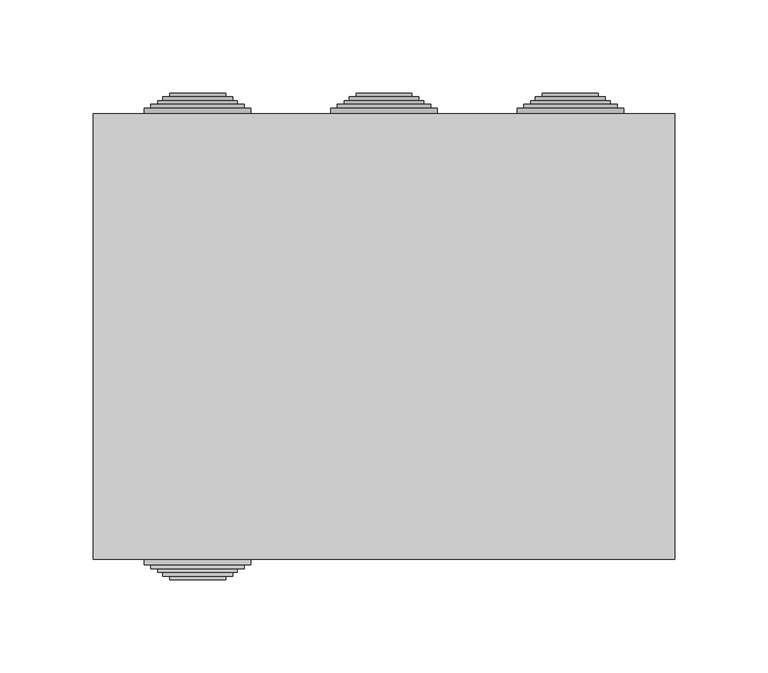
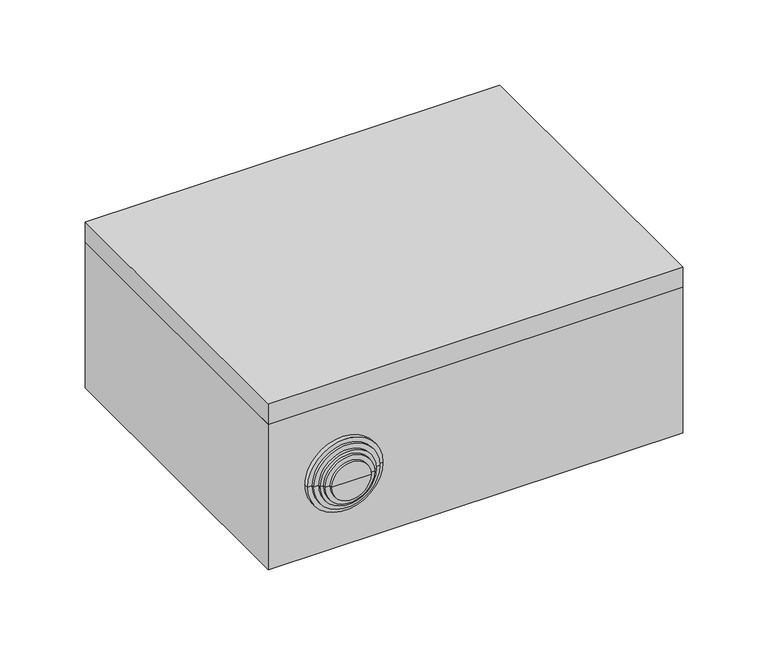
"""IFC4 building model written with IfcOpenShell, lengths in millimetres: cable carrier fitting geometry, КНС_КоробкаОтветвительнаяСКабельнымиВводами_10_IP55_DKC : с 10 кабельными вводами д.40мм, IP55, 300х220х120мм."""

from ifc_helpers import new_model, si_unit, frame, origin, place, context, project, spatial, polyline, circle_curve, faceted_brep, source, transform, mapped, element, save
from ifc_brep_helpers import plane_surface, cylinder_surface, revolved_surface, advanced_brep


def cable_carrier_fitting_1656734a(model_context):
    return source(origin(), model_context, "Body", "SolidModel", [
        advanced_brep(
        [(-75.0, -117.5, 58.0), (-125.0, -117.5, 58.0), (-128.5, -117.5, 58.0), (-71.5, -117.5, 58.0), (-75.0, -119.5, 58.0), (-125.0, -119.5, 58.0), (-71.5, -119.5, 58.0), (-128.5, -119.5, 58.0), (-71.5, -122.5, 58.0), (-128.5, -122.5, 58.0), (-75.0, -122.5, 58.0), (-125.0, -122.5, 58.0), (-75.0, -124.5, 58.0), (-125.0, -124.5, 58.0), (-78.75, -124.5, 58.0), (-121.25, -124.5, 58.0), (-78.75, -126.5, 58.0), (-121.25, -126.5, 58.0), (-81.25, -126.5, 58.0), (-118.75, -126.5, 58.0), (-81.25, -128.5, 58.0), (-118.75, -128.5, 58.0), (-85.0, -128.5, 58.0), (-115.0, -128.5, 58.0), (-85.0, -130.5, 58.0), (-115.0, -130.5, 58.0), (-100.0, -130.5, 58.0), (-75.0, -110.5, 58.0), (-125.0, -110.5, 58.0), (-100.0, -110.5, 58.0), (-71.5, -115.2491137, 58.0), (-128.5, -115.2491137, 58.0)],
        [
            (0, 1, circle_curve(frame((-100.0, -117.5, 58.0), z_axis=(0.0, 1.0, 0.0), x_axis=(-1.0000000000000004, 0.0, 0.0)), 25.0)),
            (1, 2),
            (2, 3, circle_curve(frame((-100.0, -117.5, 58.0), z_axis=(0.0, -1.0, 0.0), x_axis=(-1.0000000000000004, 0.0, 0.0)), 28.5)),
            (3, 0),
            (1, 0, circle_curve(frame((-100.0, -117.5, 58.0), z_axis=(0.0, 1.0, 0.0), x_axis=(-1.0000000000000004, 0.0, 0.0)), 25.0)),
            (3, 2, circle_curve(frame((-100.0, -117.5, 58.0), z_axis=(0.0, -1.0, 0.0), x_axis=(-1.0000000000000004, 0.0, 0.0)), 28.5)),
            (4, 5, circle_curve(frame((-100.0, -119.5, 58.0), z_axis=(0.0, 1.0, 0.0), x_axis=(-1.0000000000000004, 0.0, 0.0)), 25.0)),
            (5, 1),
            (0, 4),
            (5, 4, circle_curve(frame((-100.0, -119.5, 58.0), z_axis=(0.0, 1.0, 0.0), x_axis=(-1.0000000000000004, 0.0, 0.0)), 25.0)),
            (6, 7, circle_curve(frame((-100.0, -119.5, 58.0), z_axis=(0.0, 1.0, 0.0), x_axis=(-1.0000000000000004, 0.0, 0.0)), 28.5)),
            (7, 5),
            (4, 6),
            (7, 6, circle_curve(frame((-100.0, -119.5, 58.0), z_axis=(0.0, 1.0, 0.0), x_axis=(-1.0000000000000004, 0.0, 0.0)), 28.5)),
            (8, 9, circle_curve(frame((-100.0, -122.5, 58.0), z_axis=(0.0, 1.0, 0.0), x_axis=(-1.0000000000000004, 0.0, 0.0)), 28.5)),
            (9, 7),
            (6, 8),
            (9, 8, circle_curve(frame((-100.0, -122.5, 58.0), z_axis=(0.0, 1.0, 0.0), x_axis=(-1.0000000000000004, 0.0, 0.0)), 28.5)),
            (10, 11, circle_curve(frame((-100.0, -122.5, 58.0), z_axis=(0.0, 1.0, 0.0), x_axis=(-1.0000000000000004, 0.0, 0.0)), 25.0)),
            (11, 9),
            (8, 10),
            (11, 10, circle_curve(frame((-100.0, -122.5, 58.0), z_axis=(0.0, 1.0, 0.0), x_axis=(-1.0000000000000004, 0.0, 0.0)), 25.0)),
            (12, 13, circle_curve(frame((-100.0, -124.5, 58.0), z_axis=(0.0, 1.0, 0.0), x_axis=(-1.0000000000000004, 0.0, 0.0)), 25.0)),
            (13, 11),
            (10, 12),
            (13, 12, circle_curve(frame((-100.0, -124.5, 58.0), z_axis=(0.0, 1.0, 0.0), x_axis=(-1.0000000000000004, 0.0, 0.0)), 25.0)),
            (14, 15, circle_curve(frame((-100.0, -124.5, 58.0), z_axis=(0.0, 1.0, 0.0), x_axis=(-1.0000000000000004, 0.0, 0.0)), 21.25)),
            (15, 13),
            (12, 14),
            (15, 14, circle_curve(frame((-100.0, -124.5, 58.0), z_axis=(0.0, 1.0, 0.0), x_axis=(-1.0000000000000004, 0.0, 0.0)), 21.25)),
            (16, 17, circle_curve(frame((-100.0, -126.5, 58.0), z_axis=(0.0, 1.0, 0.0), x_axis=(-1.0000000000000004, 0.0, 0.0)), 21.25)),
            (17, 15),
            (14, 16),
            (17, 16, circle_curve(frame((-100.0, -126.5, 58.0), z_axis=(0.0, 1.0, 0.0), x_axis=(-1.0000000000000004, 0.0, 0.0)), 21.25)),
            (18, 19, circle_curve(frame((-100.0, -126.5, 58.0), z_axis=(0.0, 1.0, 0.0), x_axis=(-1.0000000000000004, 0.0, 0.0)), 18.75)),
            (19, 17),
            (16, 18),
            (19, 18, circle_curve(frame((-100.0, -126.5, 58.0), z_axis=(0.0, 1.0, 0.0), x_axis=(-1.0000000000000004, 0.0, 0.0)), 18.75)),
            (20, 21, circle_curve(frame((-100.0, -128.5, 58.0), z_axis=(0.0, 1.0, 0.0), x_axis=(-1.0000000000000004, 0.0, 0.0)), 18.75)),
            (21, 19),
            (18, 20),
            (21, 20, circle_curve(frame((-100.0, -128.5, 58.0), z_axis=(0.0, 1.0, 0.0), x_axis=(-1.0000000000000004, 0.0, 0.0)), 18.75)),
            (22, 23, circle_curve(frame((-100.0, -128.5, 58.0), z_axis=(0.0, 1.0, 0.0), x_axis=(-1.0000000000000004, 0.0, 0.0)), 15.0)),
            (23, 21),
            (20, 22),
            (23, 22, circle_curve(frame((-100.0, -128.5, 58.0), z_axis=(0.0, 1.0, 0.0), x_axis=(-1.0000000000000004, 0.0, 0.0)), 15.0)),
            (24, 25, circle_curve(frame((-100.0, -130.5, 58.0), z_axis=(0.0, 1.0, 0.0), x_axis=(-1.0000000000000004, 0.0, 0.0)), 15.0)),
            (25, 23),
            (22, 24),
            (25, 24, circle_curve(frame((-100.0, -130.5, 58.0), z_axis=(0.0, 1.0, 0.0), x_axis=(-1.0000000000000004, 0.0, 0.0)), 15.0)),
            (26, 25),
            (24, 26),
            (27, 28, circle_curve(frame((-100.0, -110.5, 58.0), z_axis=(0.0, 1.0, 0.0), x_axis=(-1.0000000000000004, 0.0, 0.0)), 25.0)),
            (28, 29),
            (29, 27),
            (28, 27, circle_curve(frame((-100.0, -110.5, 58.0), z_axis=(0.0, 1.0, 0.0), x_axis=(-1.0000000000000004, 0.0, 0.0)), 25.0)),
            (30, 31, circle_curve(frame((-100.0, -115.2491137, 58.0), z_axis=(0.0, 1.0, 0.0), x_axis=(-1.0000000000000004, 0.0, 0.0)), 28.5)),
            (31, 28),
            (27, 30),
            (31, 30, circle_curve(frame((-100.0, -115.2491137, 58.0), z_axis=(0.0, 1.0, 0.0), x_axis=(-1.0000000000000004, 0.0, 0.0)), 28.5)),
            (2, 31),
            (30, 3),
        ],
        [
            plane_surface(frame((-100.0, -117.5, 58.0), z_axis=(0.0, -1.0, 0.0), x_axis=(-1.0, 0.0, 0.0))),
            cylinder_surface(frame((-100.0, 1395.5, 58.0), z_axis=(0.0, -1.0000000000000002, 0.0), x_axis=(-1.0000000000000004, 0.0, 0.0)), 25.0),
            plane_surface(frame((-100.0, -119.5, 58.0), z_axis=(0.0, 1.0, 0.0), x_axis=(-1.0, 0.0, 0.0))),
            cylinder_surface(frame((-100.0, 1395.5, 58.0), z_axis=(0.0, -1.0000000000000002, 0.0), x_axis=(-1.0000000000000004, 0.0, 0.0)), 28.5),
            plane_surface(frame((-100.0, -122.5, 58.0), z_axis=(0.0, -1.0, 0.0), x_axis=(-1.0, 0.0, 0.0))),
            plane_surface(frame((-100.0, -124.5, 58.0), z_axis=(0.0, -1.0, 0.0), x_axis=(-1.0, 0.0, 0.0))),
            cylinder_surface(frame((-100.0, 1395.5, 58.0), z_axis=(0.0, -1.0000000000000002, 0.0), x_axis=(-1.0000000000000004, 0.0, 0.0)), 21.25),
            plane_surface(frame((-100.0, -126.5, 58.0), z_axis=(0.0, -1.0, 0.0), x_axis=(-1.0, 0.0, 0.0))),
            cylinder_surface(frame((-100.0, 1395.5, 58.0), z_axis=(0.0, -1.0000000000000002, 0.0), x_axis=(-1.0000000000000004, 0.0, 0.0)), 18.75),
            plane_surface(frame((-100.0, -128.5, 58.0), z_axis=(0.0, -1.0, 0.0), x_axis=(-1.0, 0.0, 0.0))),
            cylinder_surface(frame((-100.0, 1395.5, 58.0), z_axis=(0.0, -1.0000000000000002, 0.0), x_axis=(-1.0000000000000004, 0.0, 0.0)), 15.0),
            plane_surface(frame((-100.0, -130.5, 58.0), z_axis=(0.0, -1.0, 0.0), x_axis=(-1.0, 0.0, 0.0))),
            plane_surface(frame((-100.0, -110.5, 58.0), z_axis=(0.0, 1.0, 0.0), x_axis=(-1.0, 0.0, 0.0))),
            revolved_surface(polyline([(-125.0, -110.5, 58.0), (-128.5, -115.2491137, 58.0)]), (-100.0, 1395.5, 58.0), (0.0, -1.0000000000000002, 0.0)),
        ],
        [
            (0, [[1, 2, 3, 4]]),
            (0, [[5, -4, 6, -2]]),
            (1, [[7, 8, -1, 9]]),
            (1, [[10, -9, -5, -8]]),
            (2, [[11, 12, -7, 13]]),
            (2, [[14, -13, -10, -12]]),
            (3, [[15, 16, -11, 17]]),
            (3, [[18, -17, -14, -16]]),
            (4, [[19, 20, -15, 21]]),
            (4, [[22, -21, -18, -20]]),
            (1, [[23, 24, -19, 25]]),
            (1, [[26, -25, -22, -24]]),
            (5, [[27, 28, -23, 29]]),
            (5, [[30, -29, -26, -28]]),
            (6, [[31, 32, -27, 33]]),
            (6, [[34, -33, -30, -32]]),
            (7, [[35, 36, -31, 37]]),
            (7, [[38, -37, -34, -36]]),
            (8, [[39, 40, -35, 41]]),
            (8, [[42, -41, -38, -40]]),
            (9, [[43, 44, -39, 45]]),
            (9, [[46, -45, -42, -44]]),
            (10, [[47, 48, -43, 49]]),
            (10, [[50, -49, -46, -48]]),
            (11, [[51, -47, 52]]),
            (11, [[-52, -50, -51]]),
            (12, [[53, 54, 55]]),
            (12, [[56, -55, -54]]),
            (13, [[57, 58, -53, 59]]),
            (13, [[60, -59, -56, -58]]),
            (3, [[-3, 61, -57, 62]]),
            (3, [[-6, -62, -60, -61]]),
        ],
    ),
        advanced_brep(
        [(75.0, 117.5, 58.0), (125.0, 117.5, 58.0), (128.5, 117.5, 58.0), (71.5, 117.5, 58.0), (75.0, 119.5, 58.0), (125.0, 119.5, 58.0), (71.5, 119.5, 58.0), (128.5, 119.5, 58.0), (71.5, 122.5, 58.0), (128.5, 122.5, 58.0), (75.0, 122.5, 58.0), (125.0, 122.5, 58.0), (75.0, 124.5, 58.0), (125.0, 124.5, 58.0), (78.75, 124.5, 58.0), (121.25, 124.5, 58.0), (78.75, 126.5, 58.0), (121.25, 126.5, 58.0), (81.25, 126.5, 58.0), (118.75, 126.5, 58.0), (81.25, 128.5, 58.0), (118.75, 128.5, 58.0), (85.0, 128.5, 58.0), (115.0, 128.5, 58.0), (85.0, 130.5, 58.0), (115.0, 130.5, 58.0), (100.0, 130.5, 58.0), (75.0, 110.5, 58.0), (125.0, 110.5, 58.0), (100.0, 110.5, 58.0), (71.5, 115.2491137, 58.0), (128.5, 115.2491137, 58.0)],
        [
            (0, 1, circle_curve(frame((100.0, 117.5, 58.0), z_axis=(0.0, -1.0, 0.0), x_axis=(1.0, 0.0, 0.0)), 25.0)),
            (1, 2),
            (2, 3, circle_curve(frame((100.0, 117.5, 58.0), z_axis=(0.0, 1.0, 0.0), x_axis=(1.0, 0.0, 0.0)), 28.5)),
            (3, 0),
            (1, 0, circle_curve(frame((100.0, 117.5, 58.0), z_axis=(0.0, -1.0, 0.0), x_axis=(1.0, 0.0, 0.0)), 25.0)),
            (3, 2, circle_curve(frame((100.0, 117.5, 58.0), z_axis=(0.0, 1.0, 0.0), x_axis=(1.0, 0.0, 0.0)), 28.5)),
            (4, 5, circle_curve(frame((100.0, 119.5, 58.0), z_axis=(0.0, -1.0, 0.0), x_axis=(1.0, 0.0, 0.0)), 25.0)),
            (5, 1),
            (0, 4),
            (5, 4, circle_curve(frame((100.0, 119.5, 58.0), z_axis=(0.0, -1.0, 0.0), x_axis=(1.0, 0.0, 0.0)), 25.0)),
            (6, 7, circle_curve(frame((100.0, 119.5, 58.0), z_axis=(0.0, -1.0, 0.0), x_axis=(1.0, 0.0, 0.0)), 28.5)),
            (7, 5),
            (4, 6),
            (7, 6, circle_curve(frame((100.0, 119.5, 58.0), z_axis=(0.0, -1.0, 0.0), x_axis=(1.0, 0.0, 0.0)), 28.5)),
            (8, 9, circle_curve(frame((100.0, 122.5, 58.0), z_axis=(0.0, -1.0, 0.0), x_axis=(1.0, 0.0, 0.0)), 28.5)),
            (9, 7),
            (6, 8),
            (9, 8, circle_curve(frame((100.0, 122.5, 58.0), z_axis=(0.0, -1.0, 0.0), x_axis=(1.0, 0.0, 0.0)), 28.5)),
            (10, 11, circle_curve(frame((100.0, 122.5, 58.0), z_axis=(0.0, -1.0, 0.0), x_axis=(1.0, 0.0, 0.0)), 25.0)),
            (11, 9),
            (8, 10),
            (11, 10, circle_curve(frame((100.0, 122.5, 58.0), z_axis=(0.0, -1.0, 0.0), x_axis=(1.0, 0.0, 0.0)), 25.0)),
            (12, 13, circle_curve(frame((100.0, 124.5, 58.0), z_axis=(0.0, -1.0, 0.0), x_axis=(1.0, 0.0, 0.0)), 25.0)),
            (13, 11),
            (10, 12),
            (13, 12, circle_curve(frame((100.0, 124.5, 58.0), z_axis=(0.0, -1.0, 0.0), x_axis=(1.0, 0.0, 0.0)), 25.0)),
            (14, 15, circle_curve(frame((100.0, 124.5, 58.0), z_axis=(0.0, -1.0, 0.0), x_axis=(1.0, 0.0, 0.0)), 21.25)),
            (15, 13),
            (12, 14),
            (15, 14, circle_curve(frame((100.0, 124.5, 58.0), z_axis=(0.0, -1.0, 0.0), x_axis=(1.0, 0.0, 0.0)), 21.25)),
            (16, 17, circle_curve(frame((100.0, 126.5, 58.0), z_axis=(0.0, -1.0, 0.0), x_axis=(1.0, 0.0, 0.0)), 21.25)),
            (17, 15),
            (14, 16),
            (17, 16, circle_curve(frame((100.0, 126.5, 58.0), z_axis=(0.0, -1.0, 0.0), x_axis=(1.0, 0.0, 0.0)), 21.25)),
            (18, 19, circle_curve(frame((100.0, 126.5, 58.0), z_axis=(0.0, -1.0, 0.0), x_axis=(1.0, 0.0, 0.0)), 18.75)),
            (19, 17),
            (16, 18),
            (19, 18, circle_curve(frame((100.0, 126.5, 58.0), z_axis=(0.0, -1.0, 0.0), x_axis=(1.0, 0.0, 0.0)), 18.75)),
            (20, 21, circle_curve(frame((100.0, 128.5, 58.0), z_axis=(0.0, -1.0, 0.0), x_axis=(1.0, 0.0, 0.0)), 18.75)),
            (21, 19),
            (18, 20),
            (21, 20, circle_curve(frame((100.0, 128.5, 58.0), z_axis=(0.0, -1.0, 0.0), x_axis=(1.0, 0.0, 0.0)), 18.75)),
            (22, 23, circle_curve(frame((100.0, 128.5, 58.0), z_axis=(0.0, -1.0, 0.0), x_axis=(1.0, 0.0, 0.0)), 15.0)),
            (23, 21),
            (20, 22),
            (23, 22, circle_curve(frame((100.0, 128.5, 58.0), z_axis=(0.0, -1.0, 0.0), x_axis=(1.0, 0.0, 0.0)), 15.0)),
            (24, 25, circle_curve(frame((100.0, 130.5, 58.0), z_axis=(0.0, -1.0, 0.0), x_axis=(1.0, 0.0, 0.0)), 15.0)),
            (25, 23),
            (22, 24),
            (25, 24, circle_curve(frame((100.0, 130.5, 58.0), z_axis=(0.0, -1.0, 0.0), x_axis=(1.0, 0.0, 0.0)), 15.0)),
            (26, 25),
            (24, 26),
            (27, 28, circle_curve(frame((100.0, 110.5, 58.0), z_axis=(0.0, -1.0, 0.0), x_axis=(1.0, 0.0, 0.0)), 25.0)),
            (28, 29),
            (29, 27),
            (28, 27, circle_curve(frame((100.0, 110.5, 58.0), z_axis=(0.0, -1.0, 0.0), x_axis=(1.0, 0.0, 0.0)), 25.0)),
            (30, 31, circle_curve(frame((100.0, 115.2491137, 58.0), z_axis=(0.0, -1.0, 0.0), x_axis=(1.0, 0.0, 0.0)), 28.5)),
            (31, 28),
            (27, 30),
            (31, 30, circle_curve(frame((100.0, 115.2491137, 58.0), z_axis=(0.0, -1.0, 0.0), x_axis=(1.0, 0.0, 0.0)), 28.5)),
            (2, 31),
            (30, 3),
        ],
        [
            plane_surface(frame((100.0, 117.5, 58.0), z_axis=(0.0, 1.0, 0.0), x_axis=(1.0, 0.0, 0.0))),
            cylinder_surface(frame((100.0, -1395.5, 58.0), z_axis=(0.0, 1.0, 0.0), x_axis=(1.0, 0.0, 0.0)), 25.0),
            plane_surface(frame((100.0, 119.5, 58.0), z_axis=(0.0, -1.0, 0.0), x_axis=(1.0, 0.0, 0.0))),
            cylinder_surface(frame((100.0, -1395.5, 58.0), z_axis=(0.0, 1.0, 0.0), x_axis=(1.0, 0.0, 0.0)), 28.5),
            plane_surface(frame((100.0, 122.5, 58.0), z_axis=(0.0, 1.0, 0.0), x_axis=(1.0, 0.0, 0.0))),
            plane_surface(frame((100.0, 124.5, 58.0), z_axis=(0.0, 1.0, 0.0), x_axis=(1.0, 0.0, 0.0))),
            cylinder_surface(frame((100.0, -1395.5, 58.0), z_axis=(0.0, 1.0, 0.0), x_axis=(1.0, 0.0, 0.0)), 21.25),
            plane_surface(frame((100.0, 126.5, 58.0), z_axis=(0.0, 1.0, 0.0), x_axis=(1.0, 0.0, 0.0))),
            cylinder_surface(frame((100.0, -1395.5, 58.0), z_axis=(0.0, 1.0, 0.0), x_axis=(1.0, 0.0, 0.0)), 18.75),
            plane_surface(frame((100.0, 128.5, 58.0), z_axis=(0.0, 1.0, 0.0), x_axis=(1.0, 0.0, 0.0))),
            cylinder_surface(frame((100.0, -1395.5, 58.0), z_axis=(0.0, 1.0, 0.0), x_axis=(1.0, 0.0, 0.0)), 15.0),
            plane_surface(frame((100.0, 130.5, 58.0), z_axis=(0.0, 1.0, 0.0), x_axis=(1.0, 0.0, 0.0))),
            plane_surface(frame((100.0, 110.5, 58.0), z_axis=(0.0, -1.0, 0.0), x_axis=(1.0, 0.0, 0.0))),
            revolved_surface(polyline([(125.0, 110.5, 58.0), (128.5, 115.2491137, 58.0)]), (100.0, -1395.5, 58.0), (0.0, 1.0, 0.0)),
        ],
        [
            (0, [[1, 2, 3, 4]]),
            (0, [[5, -4, 6, -2]]),
            (1, [[7, 8, -1, 9]]),
            (1, [[10, -9, -5, -8]]),
            (2, [[11, 12, -7, 13]]),
            (2, [[14, -13, -10, -12]]),
            (3, [[15, 16, -11, 17]]),
            (3, [[18, -17, -14, -16]]),
            (4, [[19, 20, -15, 21]]),
            (4, [[22, -21, -18, -20]]),
            (1, [[23, 24, -19, 25]]),
            (1, [[26, -25, -22, -24]]),
            (5, [[27, 28, -23, 29]]),
            (5, [[30, -29, -26, -28]]),
            (6, [[31, 32, -27, 33]]),
            (6, [[34, -33, -30, -32]]),
            (7, [[35, 36, -31, 37]]),
            (7, [[38, -37, -34, -36]]),
            (8, [[39, 40, -35, 41]]),
            (8, [[42, -41, -38, -40]]),
            (9, [[43, 44, -39, 45]]),
            (9, [[46, -45, -42, -44]]),
            (10, [[47, 48, -43, 49]]),
            (10, [[50, -49, -46, -48]]),
            (11, [[51, -47, 52]]),
            (11, [[-52, -50, -51]]),
            (12, [[53, 54, 55]]),
            (12, [[56, -55, -54]]),
            (13, [[57, 58, -53, 59]]),
            (13, [[60, -59, -56, -58]]),
            (3, [[-3, 61, -57, 62]]),
            (3, [[-6, -62, -60, -61]]),
        ],
    ),
        advanced_brep(
        [(-25.0, 117.5, 58.0), (25.0, 117.5, 58.0), (28.5, 117.5, 58.0), (-28.5, 117.5, 58.0), (-25.0, 119.5, 58.0), (25.0, 119.5, 58.0), (-28.5, 119.5, 58.0), (28.5, 119.5, 58.0), (-28.5, 122.5, 58.0), (28.5, 122.5, 58.0), (-25.0, 122.5, 58.0), (25.0, 122.5, 58.0), (-25.0, 124.5, 58.0), (25.0, 124.5, 58.0), (-21.25, 124.5, 58.0), (21.25, 124.5, 58.0), (-21.25, 126.5, 58.0), (21.25, 126.5, 58.0), (-18.75, 126.5, 58.0), (18.75, 126.5, 58.0), (-18.75, 128.5, 58.0), (18.75, 128.5, 58.0), (-15.0, 128.5, 58.0), (15.0, 128.5, 58.0), (-15.0, 130.5, 58.0), (15.0, 130.5, 58.0), (0.0, 130.5, 58.0), (-25.0, 110.5, 58.0), (25.0, 110.5, 58.0), (0.0, 110.5, 58.0), (-28.5, 115.2491137, 58.0), (28.5, 115.2491137, 58.0)],
        [
            (0, 1, circle_curve(frame((0.0, 117.5, 58.0), z_axis=(0.0, -1.0, 0.0), x_axis=(1.0, 0.0, 0.0)), 25.0)),
            (1, 2),
            (2, 3, circle_curve(frame((0.0, 117.5, 58.0), z_axis=(0.0, 1.0, 0.0), x_axis=(1.0, 0.0, 0.0)), 28.5)),
            (3, 0),
            (1, 0, circle_curve(frame((0.0, 117.5, 58.0), z_axis=(0.0, -1.0, 0.0), x_axis=(1.0, 0.0, 0.0)), 25.0)),
            (3, 2, circle_curve(frame((0.0, 117.5, 58.0), z_axis=(0.0, 1.0, 0.0), x_axis=(1.0, 0.0, 0.0)), 28.5)),
            (4, 5, circle_curve(frame((0.0, 119.5, 58.0), z_axis=(0.0, -1.0, 0.0), x_axis=(1.0, 0.0, 0.0)), 25.0)),
            (5, 1),
            (0, 4),
            (5, 4, circle_curve(frame((0.0, 119.5, 58.0), z_axis=(0.0, -1.0, 0.0), x_axis=(1.0, 0.0, 0.0)), 25.0)),
            (6, 7, circle_curve(frame((0.0, 119.5, 58.0), z_axis=(0.0, -1.0, 0.0), x_axis=(1.0, 0.0, 0.0)), 28.5)),
            (7, 5),
            (4, 6),
            (7, 6, circle_curve(frame((0.0, 119.5, 58.0), z_axis=(0.0, -1.0, 0.0), x_axis=(1.0, 0.0, 0.0)), 28.5)),
            (8, 9, circle_curve(frame((0.0, 122.5, 58.0), z_axis=(0.0, -1.0, 0.0), x_axis=(1.0, 0.0, 0.0)), 28.5)),
            (9, 7),
            (6, 8),
            (9, 8, circle_curve(frame((0.0, 122.5, 58.0), z_axis=(0.0, -1.0, 0.0), x_axis=(1.0, 0.0, 0.0)), 28.5)),
            (10, 11, circle_curve(frame((0.0, 122.5, 58.0), z_axis=(0.0, -1.0, 0.0), x_axis=(1.0, 0.0, 0.0)), 25.0)),
            (11, 9),
            (8, 10),
            (11, 10, circle_curve(frame((0.0, 122.5, 58.0), z_axis=(0.0, -1.0, 0.0), x_axis=(1.0, 0.0, 0.0)), 25.0)),
            (12, 13, circle_curve(frame((0.0, 124.5, 58.0), z_axis=(0.0, -1.0, 0.0), x_axis=(1.0, 0.0, 0.0)), 25.0)),
            (13, 11),
            (10, 12),
            (13, 12, circle_curve(frame((0.0, 124.5, 58.0), z_axis=(0.0, -1.0, 0.0), x_axis=(1.0, 0.0, 0.0)), 25.0)),
            (14, 15, circle_curve(frame((0.0, 124.5, 58.0), z_axis=(0.0, -1.0, 0.0), x_axis=(1.0, 0.0, 0.0)), 21.25)),
            (15, 13),
            (12, 14),
            (15, 14, circle_curve(frame((0.0, 124.5, 58.0), z_axis=(0.0, -1.0, 0.0), x_axis=(1.0, 0.0, 0.0)), 21.25)),
            (16, 17, circle_curve(frame((0.0, 126.5, 58.0), z_axis=(0.0, -1.0, 0.0), x_axis=(1.0, 0.0, 0.0)), 21.25)),
            (17, 15),
            (14, 16),
            (17, 16, circle_curve(frame((0.0, 126.5, 58.0), z_axis=(0.0, -1.0, 0.0), x_axis=(1.0, 0.0, 0.0)), 21.25)),
            (18, 19, circle_curve(frame((0.0, 126.5, 58.0), z_axis=(0.0, -1.0, 0.0), x_axis=(1.0, 0.0, 0.0)), 18.75)),
            (19, 17),
            (16, 18),
            (19, 18, circle_curve(frame((0.0, 126.5, 58.0), z_axis=(0.0, -1.0, 0.0), x_axis=(1.0, 0.0, 0.0)), 18.75)),
            (20, 21, circle_curve(frame((0.0, 128.5, 58.0), z_axis=(0.0, -1.0, 0.0), x_axis=(1.0, 0.0, 0.0)), 18.75)),
            (21, 19),
            (18, 20),
            (21, 20, circle_curve(frame((0.0, 128.5, 58.0), z_axis=(0.0, -1.0, 0.0), x_axis=(1.0, 0.0, 0.0)), 18.75)),
            (22, 23, circle_curve(frame((0.0, 128.5, 58.0), z_axis=(0.0, -1.0, 0.0), x_axis=(1.0, 0.0, 0.0)), 15.0)),
            (23, 21),
            (20, 22),
            (23, 22, circle_curve(frame((0.0, 128.5, 58.0), z_axis=(0.0, -1.0, 0.0), x_axis=(1.0, 0.0, 0.0)), 15.0)),
            (24, 25, circle_curve(frame((0.0, 130.5, 58.0), z_axis=(0.0, -1.0, 0.0), x_axis=(1.0, 0.0, 0.0)), 15.0)),
            (25, 23),
            (22, 24),
            (25, 24, circle_curve(frame((0.0, 130.5, 58.0), z_axis=(0.0, -1.0, 0.0), x_axis=(1.0, 0.0, 0.0)), 15.0)),
            (26, 25),
            (24, 26),
            (27, 28, circle_curve(frame((0.0, 110.5, 58.0), z_axis=(0.0, -1.0, 0.0), x_axis=(1.0, 0.0, 0.0)), 25.0)),
            (28, 29),
            (29, 27),
            (28, 27, circle_curve(frame((0.0, 110.5, 58.0), z_axis=(0.0, -1.0, 0.0), x_axis=(1.0, 0.0, 0.0)), 25.0)),
            (30, 31, circle_curve(frame((0.0, 115.2491137, 58.0), z_axis=(0.0, -1.0, 0.0), x_axis=(1.0, 0.0, 0.0)), 28.5)),
            (31, 28),
            (27, 30),
            (31, 30, circle_curve(frame((0.0, 115.2491137, 58.0), z_axis=(0.0, -1.0, 0.0), x_axis=(1.0, 0.0, 0.0)), 28.5)),
            (2, 31),
            (30, 3),
        ],
        [
            plane_surface(frame((0.0, 117.5, 58.0), z_axis=(0.0, 1.0, 0.0), x_axis=(1.0, 0.0, 0.0))),
            cylinder_surface(frame((0.0, -1395.5, 58.0), z_axis=(0.0, 1.0, 0.0), x_axis=(1.0, 0.0, 0.0)), 25.0),
            plane_surface(frame((0.0, 119.5, 58.0), z_axis=(0.0, -1.0, 0.0), x_axis=(1.0, 0.0, 0.0))),
            cylinder_surface(frame((0.0, -1395.5, 58.0), z_axis=(0.0, 1.0, 0.0), x_axis=(1.0, 0.0, 0.0)), 28.5),
            plane_surface(frame((0.0, 122.5, 58.0), z_axis=(0.0, 1.0, 0.0), x_axis=(1.0, 0.0, 0.0))),
            plane_surface(frame((0.0, 124.5, 58.0), z_axis=(0.0, 1.0, 0.0), x_axis=(1.0, 0.0, 0.0))),
            cylinder_surface(frame((0.0, -1395.5, 58.0), z_axis=(0.0, 1.0, 0.0), x_axis=(1.0, 0.0, 0.0)), 21.25),
            plane_surface(frame((0.0, 126.5, 58.0), z_axis=(0.0, 1.0, 0.0), x_axis=(1.0, 0.0, 0.0))),
            cylinder_surface(frame((0.0, -1395.5, 58.0), z_axis=(0.0, 1.0, 0.0), x_axis=(1.0, 0.0, 0.0)), 18.75),
            plane_surface(frame((0.0, 128.5, 58.0), z_axis=(0.0, 1.0, 0.0), x_axis=(1.0, 0.0, 0.0))),
            cylinder_surface(frame((0.0, -1395.5, 58.0), z_axis=(0.0, 1.0, 0.0), x_axis=(1.0, 0.0, 0.0)), 15.0),
            plane_surface(frame((0.0, 130.5, 58.0), z_axis=(0.0, 1.0, 0.0), x_axis=(1.0, 0.0, 0.0))),
            plane_surface(frame((0.0, 110.5, 58.0), z_axis=(0.0, -1.0, 0.0), x_axis=(1.0, 0.0, 0.0))),
            revolved_surface(polyline([(25.0, 110.5, 58.0), (28.5, 115.2491137, 58.0)]), (0.0, -1395.5, 58.0), (0.0, 1.0, 0.0)),
        ],
        [
            (0, [[1, 2, 3, 4]]),
            (0, [[5, -4, 6, -2]]),
            (1, [[7, 8, -1, 9]]),
            (1, [[10, -9, -5, -8]]),
            (2, [[11, 12, -7, 13]]),
            (2, [[14, -13, -10, -12]]),
            (3, [[15, 16, -11, 17]]),
            (3, [[18, -17, -14, -16]]),
            (4, [[19, 20, -15, 21]]),
            (4, [[22, -21, -18, -20]]),
            (1, [[23, 24, -19, 25]]),
            (1, [[26, -25, -22, -24]]),
            (5, [[27, 28, -23, 29]]),
            (5, [[30, -29, -26, -28]]),
            (6, [[31, 32, -27, 33]]),
            (6, [[34, -33, -30, -32]]),
            (7, [[35, 36, -31, 37]]),
            (7, [[38, -37, -34, -36]]),
            (8, [[39, 40, -35, 41]]),
            (8, [[42, -41, -38, -40]]),
            (9, [[43, 44, -39, 45]]),
            (9, [[46, -45, -42, -44]]),
            (10, [[47, 48, -43, 49]]),
            (10, [[50, -49, -46, -48]]),
            (11, [[51, -47, 52]]),
            (11, [[-52, -50, -51]]),
            (12, [[53, 54, 55]]),
            (12, [[56, -55, -54]]),
            (13, [[57, 58, -53, 59]]),
            (13, [[60, -59, -56, -58]]),
            (3, [[-3, 61, -57, 62]]),
            (3, [[-6, -62, -60, -61]]),
        ],
    ),
        advanced_brep(
        [(-125.0, 117.5, 58.0), (-75.0, 117.5, 58.0), (-71.5, 117.5, 58.0), (-128.5, 117.5, 58.0), (-125.0, 119.5, 58.0), (-75.0, 119.5, 58.0), (-128.5, 119.5, 58.0), (-71.5, 119.5, 58.0), (-128.5, 122.5, 58.0), (-71.5, 122.5, 58.0), (-125.0, 122.5, 58.0), (-75.0, 122.5, 58.0), (-125.0, 124.5, 58.0), (-75.0, 124.5, 58.0), (-121.25, 124.5, 58.0), (-78.75, 124.5, 58.0), (-121.25, 126.5, 58.0), (-78.75, 126.5, 58.0), (-118.75, 126.5, 58.0), (-81.25, 126.5, 58.0), (-118.75, 128.5, 58.0), (-81.25, 128.5, 58.0), (-115.0, 128.5, 58.0), (-85.0, 128.5, 58.0), (-115.0, 130.5, 58.0), (-85.0, 130.5, 58.0), (-100.0, 130.5, 58.0), (-125.0, 110.5, 58.0), (-75.0, 110.5, 58.0), (-100.0, 110.5, 58.0), (-128.5, 115.2491137, 58.0), (-71.5, 115.2491137, 58.0)],
        [
            (0, 1, circle_curve(frame((-100.0, 117.5, 58.0), z_axis=(0.0, -1.0, 0.0), x_axis=(1.0000000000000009, 0.0, 0.0)), 25.0)),
            (1, 2),
            (2, 3, circle_curve(frame((-100.0, 117.5, 58.0), z_axis=(0.0, 1.0, 0.0), x_axis=(1.0000000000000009, 0.0, 0.0)), 28.5)),
            (3, 0),
            (1, 0, circle_curve(frame((-100.0, 117.5, 58.0), z_axis=(0.0, -1.0, 0.0), x_axis=(1.0000000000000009, 0.0, 0.0)), 25.0)),
            (3, 2, circle_curve(frame((-100.0, 117.5, 58.0), z_axis=(0.0, 1.0, 0.0), x_axis=(1.0000000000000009, 0.0, 0.0)), 28.5)),
            (4, 5, circle_curve(frame((-100.0, 119.5, 58.0), z_axis=(0.0, -1.0, 0.0), x_axis=(1.0000000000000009, 0.0, 0.0)), 25.0)),
            (5, 1),
            (0, 4),
            (5, 4, circle_curve(frame((-100.0, 119.5, 58.0), z_axis=(0.0, -1.0, 0.0), x_axis=(1.0000000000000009, 0.0, 0.0)), 25.0)),
            (6, 7, circle_curve(frame((-100.0, 119.5, 58.0), z_axis=(0.0, -1.0, 0.0), x_axis=(1.0000000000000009, 0.0, 0.0)), 28.5)),
            (7, 5),
            (4, 6),
            (7, 6, circle_curve(frame((-100.0, 119.5, 58.0), z_axis=(0.0, -1.0, 0.0), x_axis=(1.0000000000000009, 0.0, 0.0)), 28.5)),
            (8, 9, circle_curve(frame((-100.0, 122.5, 58.0), z_axis=(0.0, -1.0, 0.0), x_axis=(1.0000000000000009, 0.0, 0.0)), 28.5)),
            (9, 7),
            (6, 8),
            (9, 8, circle_curve(frame((-100.0, 122.5, 58.0), z_axis=(0.0, -1.0, 0.0), x_axis=(1.0000000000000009, 0.0, 0.0)), 28.5)),
            (10, 11, circle_curve(frame((-100.0, 122.5, 58.0), z_axis=(0.0, -1.0, 0.0), x_axis=(1.0000000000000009, 0.0, 0.0)), 25.0)),
            (11, 9),
            (8, 10),
            (11, 10, circle_curve(frame((-100.0, 122.5, 58.0), z_axis=(0.0, -1.0, 0.0), x_axis=(1.0000000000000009, 0.0, 0.0)), 25.0)),
            (12, 13, circle_curve(frame((-100.0, 124.5, 58.0), z_axis=(0.0, -1.0, 0.0), x_axis=(1.0000000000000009, 0.0, 0.0)), 25.0)),
            (13, 11),
            (10, 12),
            (13, 12, circle_curve(frame((-100.0, 124.5, 58.0), z_axis=(0.0, -1.0, 0.0), x_axis=(1.0000000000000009, 0.0, 0.0)), 25.0)),
            (14, 15, circle_curve(frame((-100.0, 124.5, 58.0), z_axis=(0.0, -1.0, 0.0), x_axis=(1.0000000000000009, 0.0, 0.0)), 21.25)),
            (15, 13),
            (12, 14),
            (15, 14, circle_curve(frame((-100.0, 124.5, 58.0), z_axis=(0.0, -1.0, 0.0), x_axis=(1.0000000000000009, 0.0, 0.0)), 21.25)),
            (16, 17, circle_curve(frame((-100.0, 126.5, 58.0), z_axis=(0.0, -1.0, 0.0), x_axis=(1.0000000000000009, 0.0, 0.0)), 21.25)),
            (17, 15),
            (14, 16),
            (17, 16, circle_curve(frame((-100.0, 126.5, 58.0), z_axis=(0.0, -1.0, 0.0), x_axis=(1.0000000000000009, 0.0, 0.0)), 21.25)),
            (18, 19, circle_curve(frame((-100.0, 126.5, 58.0), z_axis=(0.0, -1.0, 0.0), x_axis=(1.0000000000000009, 0.0, 0.0)), 18.75)),
            (19, 17),
            (16, 18),
            (19, 18, circle_curve(frame((-100.0, 126.5, 58.0), z_axis=(0.0, -1.0, 0.0), x_axis=(1.0000000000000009, 0.0, 0.0)), 18.75)),
            (20, 21, circle_curve(frame((-100.0, 128.5, 58.0), z_axis=(0.0, -1.0, 0.0), x_axis=(1.0000000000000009, 0.0, 0.0)), 18.75)),
            (21, 19),
            (18, 20),
            (21, 20, circle_curve(frame((-100.0, 128.5, 58.0), z_axis=(0.0, -1.0, 0.0), x_axis=(1.0000000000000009, 0.0, 0.0)), 18.75)),
            (22, 23, circle_curve(frame((-100.0, 128.5, 58.0), z_axis=(0.0, -1.0, 0.0), x_axis=(1.0000000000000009, 0.0, 0.0)), 15.0)),
            (23, 21),
            (20, 22),
            (23, 22, circle_curve(frame((-100.0, 128.5, 58.0), z_axis=(0.0, -1.0, 0.0), x_axis=(1.0000000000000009, 0.0, 0.0)), 15.0)),
            (24, 25, circle_curve(frame((-100.0, 130.5, 58.0), z_axis=(0.0, -1.0, 0.0), x_axis=(1.0000000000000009, 0.0, 0.0)), 15.0)),
            (25, 23),
            (22, 24),
            (25, 24, circle_curve(frame((-100.0, 130.5, 58.0), z_axis=(0.0, -1.0, 0.0), x_axis=(1.0000000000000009, 0.0, 0.0)), 15.0)),
            (26, 25),
            (24, 26),
            (27, 28, circle_curve(frame((-100.0, 110.5, 58.0), z_axis=(0.0, -1.0, 0.0), x_axis=(1.0000000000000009, 0.0, 0.0)), 25.0)),
            (28, 29),
            (29, 27),
            (28, 27, circle_curve(frame((-100.0, 110.5, 58.0), z_axis=(0.0, -1.0, 0.0), x_axis=(1.0000000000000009, 0.0, 0.0)), 25.0)),
            (30, 31, circle_curve(frame((-100.0, 115.2491137, 58.0), z_axis=(0.0, -1.0, 0.0), x_axis=(1.0000000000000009, 0.0, 0.0)), 28.5)),
            (31, 28),
            (27, 30),
            (31, 30, circle_curve(frame((-100.0, 115.2491137, 58.0), z_axis=(0.0, -1.0, 0.0), x_axis=(1.0000000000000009, 0.0, 0.0)), 28.5)),
            (2, 31),
            (30, 3),
        ],
        [
            plane_surface(frame((-100.0, 117.5, 58.0), z_axis=(0.0, 1.0, 0.0), x_axis=(1.0, 0.0, 0.0))),
            cylinder_surface(frame((-100.0, -1395.5, 58.0), z_axis=(0.0, 1.0000000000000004, 0.0), x_axis=(1.0000000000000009, 0.0, 0.0)), 25.0),
            plane_surface(frame((-100.0, 119.5, 58.0), z_axis=(0.0, -1.0, 0.0), x_axis=(1.0, 0.0, 0.0))),
            cylinder_surface(frame((-100.0, -1395.5, 58.0), z_axis=(0.0, 1.0000000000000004, 0.0), x_axis=(1.0000000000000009, 0.0, 0.0)), 28.5),
            plane_surface(frame((-100.0, 122.5, 58.0), z_axis=(0.0, 1.0, 0.0), x_axis=(1.0, 0.0, 0.0))),
            plane_surface(frame((-100.0, 124.5, 58.0), z_axis=(0.0, 1.0, 0.0), x_axis=(1.0, 0.0, 0.0))),
            cylinder_surface(frame((-100.0, -1395.5, 58.0), z_axis=(0.0, 1.0000000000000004, 0.0), x_axis=(1.0000000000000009, 0.0, 0.0)), 21.25),
            plane_surface(frame((-100.0, 126.5, 58.0), z_axis=(0.0, 1.0, 0.0), x_axis=(1.0, 0.0, 0.0))),
            cylinder_surface(frame((-100.0, -1395.5, 58.0), z_axis=(0.0, 1.0000000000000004, 0.0), x_axis=(1.0000000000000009, 0.0, 0.0)), 18.75),
            plane_surface(frame((-100.0, 128.5, 58.0), z_axis=(0.0, 1.0, 0.0), x_axis=(1.0, 0.0, 0.0))),
            cylinder_surface(frame((-100.0, -1395.5, 58.0), z_axis=(0.0, 1.0000000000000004, 0.0), x_axis=(1.0000000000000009, 0.0, 0.0)), 15.0),
            plane_surface(frame((-100.0, 130.5, 58.0), z_axis=(0.0, 1.0, 0.0), x_axis=(1.0, 0.0, 0.0))),
            plane_surface(frame((-100.0, 110.5, 58.0), z_axis=(0.0, -1.0, 0.0), x_axis=(1.0, 0.0, 0.0))),
            revolved_surface(polyline([(-75.0, 110.5, 58.0), (-71.5, 115.2491137, 58.0)]), (-100.0, -1395.5, 58.0), (0.0, 1.0000000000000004, 0.0)),
        ],
        [
            (0, [[1, 2, 3, 4]]),
            (0, [[5, -4, 6, -2]]),
            (1, [[7, 8, -1, 9]]),
            (1, [[10, -9, -5, -8]]),
            (2, [[11, 12, -7, 13]]),
            (2, [[14, -13, -10, -12]]),
            (3, [[15, 16, -11, 17]]),
            (3, [[18, -17, -14, -16]]),
            (4, [[19, 20, -15, 21]]),
            (4, [[22, -21, -18, -20]]),
            (1, [[23, 24, -19, 25]]),
            (1, [[26, -25, -22, -24]]),
            (5, [[27, 28, -23, 29]]),
            (5, [[30, -29, -26, -28]]),
            (6, [[31, 32, -27, 33]]),
            (6, [[34, -33, -30, -32]]),
            (7, [[35, 36, -31, 37]]),
            (7, [[38, -37, -34, -36]]),
            (8, [[39, 40, -35, 41]]),
            (8, [[42, -41, -38, -40]]),
            (9, [[43, 44, -39, 45]]),
            (9, [[46, -45, -42, -44]]),
            (10, [[47, 48, -43, 49]]),
            (10, [[50, -49, -46, -48]]),
            (11, [[51, -47, 52]]),
            (11, [[-52, -50, -51]]),
            (12, [[53, 54, 55]]),
            (12, [[56, -55, -54]]),
            (13, [[57, 58, -53, 59]]),
            (13, [[60, -59, -56, -58]]),
            (3, [[-3, 61, -57, 62]]),
            (3, [[-6, -62, -60, -61]]),
        ],
    ),
        faceted_brep([(156.0, 119.5, 132.0), (-156.0, 119.5, 132.0), (-156.0, -119.5, 132.0), (156.0, -119.5, 132.0), (-154.0, -117.5, 130.0), (-154.0, 117.5, 130.0), (154.0, 117.5, 130.0), (154.0, -117.5, 130.0), (156.0, 119.5, 116.0), (156.0, -119.5, 116.0), (-156.0, -119.5, 116.0), (-156.0, 119.5, 116.0), (-154.0, -117.5, 116.0), (154.0, -117.5, 116.0), (154.0, 117.5, 116.0), (-154.0, 117.5, 116.0)], [[[0, 1, 2, 3]], [[4, 5, 6, 7]], [[8, 9, 10, 11], [12, 13, 14, 15]], [[1, 0, 8, 11]], [[2, 1, 11, 10]], [[3, 2, 10, 9]], [[0, 3, 9, 8]], [[12, 15, 5, 4]], [[15, 14, 6, 5]], [[14, 13, 7, 6]], [[13, 12, 4, 7]]]),
        faceted_brep([(-154.0, -117.5, 2.0), (154.0, -117.5, 2.0), (154.0, 117.5, 2.0), (-154.0, 117.5, 2.0), (156.0, 119.5, 0.0), (156.0, -119.5, 0.0), (-156.0, -119.5, 0.0), (-156.0, 119.5, 0.0), (156.0, 119.5, 116.0), (-156.0, 119.5, 116.0), (-156.0, -119.5, 116.0), (156.0, -119.5, 116.0), (154.0, -117.5, 116.0), (-154.0, -117.5, 116.0), (-154.0, 117.5, 116.0), (154.0, 117.5, 116.0)], [[[0, 1, 2, 3]], [[4, 5, 6, 7]], [[8, 9, 10, 11], [12, 13, 14, 15]], [[9, 8, 4, 7]], [[10, 9, 7, 6]], [[11, 10, 6, 5]], [[8, 11, 5, 4]], [[13, 12, 1, 0]], [[14, 13, 0, 3]], [[15, 14, 3, 2]], [[12, 15, 2, 1]]]),
    ])


if __name__ == "__main__":
    model = new_model("IFC4")
    model_context = context("Model", 3, world=origin())
    ifc_project = project(units=[si_unit("LENGTHUNIT", "METRE", prefix="MILLI")], contexts=[model_context])
    site = spatial("IfcSite", under=ifc_project)
    building = spatial("IfcBuilding", under=site)
    placement = place(None, origin())
    cable_carrier_fitting_shape = cable_carrier_fitting_1656734a(model_context)
    element("IfcCableCarrierFitting", 1, ObjectType="КНС_КоробкаОтветвительнаяСКабельнымиВводами_10_IP55_DKC : с 10 кабельными вводами д.40мм, IP55, 300х220х120мм", at=placement, inside=building, context=model_context, shape_type="MappedRepresentation", body=[
        mapped(cable_carrier_fitting_shape, transform((0.0, 0.0, 0.0), x_axis=(1.0, 0.0, 0.0), y_axis=(0.0, 1.0, 0.0), z_axis=(0.0, 0.0, 1.0))),
    ])
    save(model, "model.ifc")
